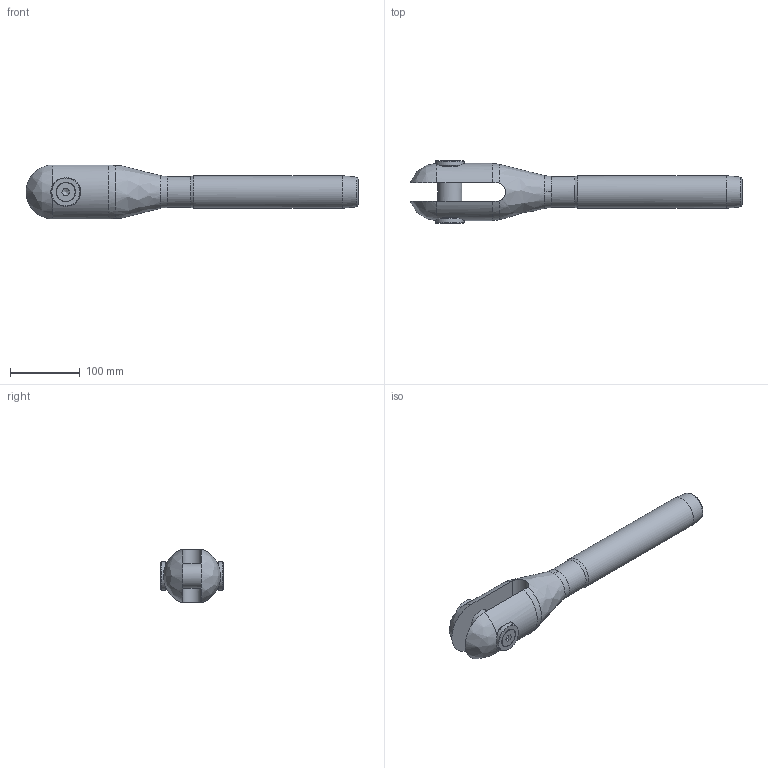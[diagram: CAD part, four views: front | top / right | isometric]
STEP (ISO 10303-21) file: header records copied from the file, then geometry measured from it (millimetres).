
FILE_DESCRIPTION(/* description */ (''),/* implementation_level */ '2;1');
FILE_NAME(/* name */ 'MAC 26_42CrMo4',/* time_stamp */ '2023-05-23T16:55:19+02:00',/* author */ (''),/* organization */ (''),/* preprocessor_version */ 'ST-DEVELOPER v16.5',/* originating_system */ 'Rhino 7.22',/* authorisation */ '');
FILE_SCHEMA (('CONFIG_CONTROL_DESIGN'));
Length unit declared in the file: millimetre
Products named in the file (1): Document
Bounding box: 476.62 x 89.18 x 77.43 mm (x, y, z)
Volume: 1057010.8 mm3; surface area: 126334.2 mm2
Topology: 6 solids, 6 shells, 75 faces, 210 edges, 145 vertices
Faces by surface type: plane 29, bspline 24, cylinder 22
Full cylindrical faces by diameter (mm): 11.835 x2, 14 x2, 14.5 x2, 26.52 x2, 35 x1, 37 x2, 41 x2, 44.5 x1, 46.8 x1
Entity records: 3138 total; most frequent: CARTESIAN_POINT 1791, ORIENTED_EDGE 412, EDGE_CURVE 206, VERTEX_POINT 145, EDGE_LOOP 85, B_SPLINE_CURVE_WITH_KNOTS 84, ADVANCED_FACE 75, FACE_OUTER_BOUND 75
